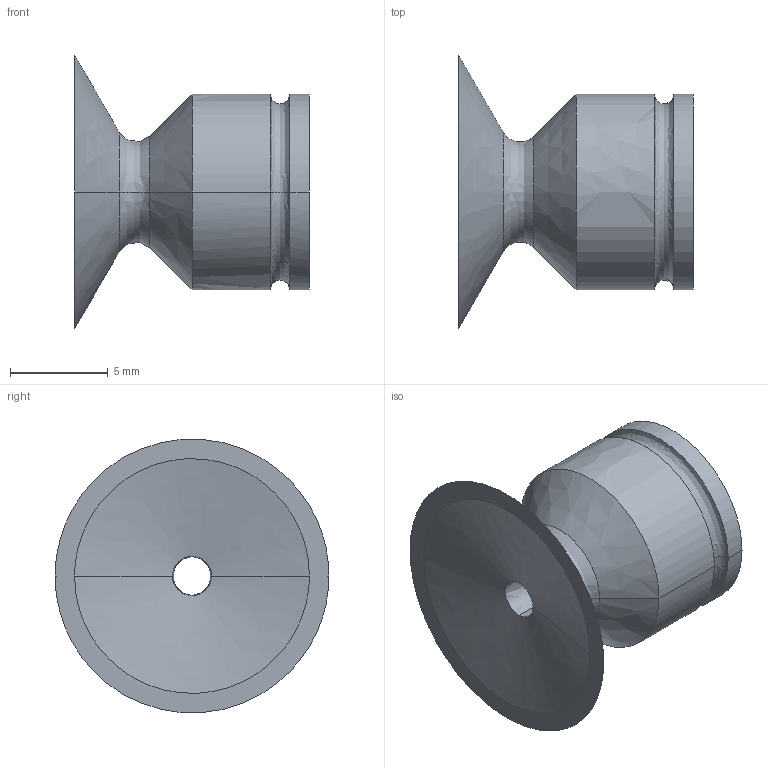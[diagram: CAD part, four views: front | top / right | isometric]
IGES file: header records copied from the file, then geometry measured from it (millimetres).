
Start section:  PTC IGES file: 210616_vaph-14c.igs
Global section: file name: 210616_vaph-14c.igs; native system: Pro/ENGINEER by Parametric Technology Corporation; preprocessor: 2004090; author: KAIHATSU01; organization: Unknown; date: 061017.104901; units: millimetre
Bounding box: 12 x 14 x 13.96 mm (x, y, z)
Volume: 598.1 mm3; surface area: 848.9 mm2
Topology: 1 solids, 1 shells, 24 faces, 50 edges, 30 vertices
Faces by surface type: bspline 24
